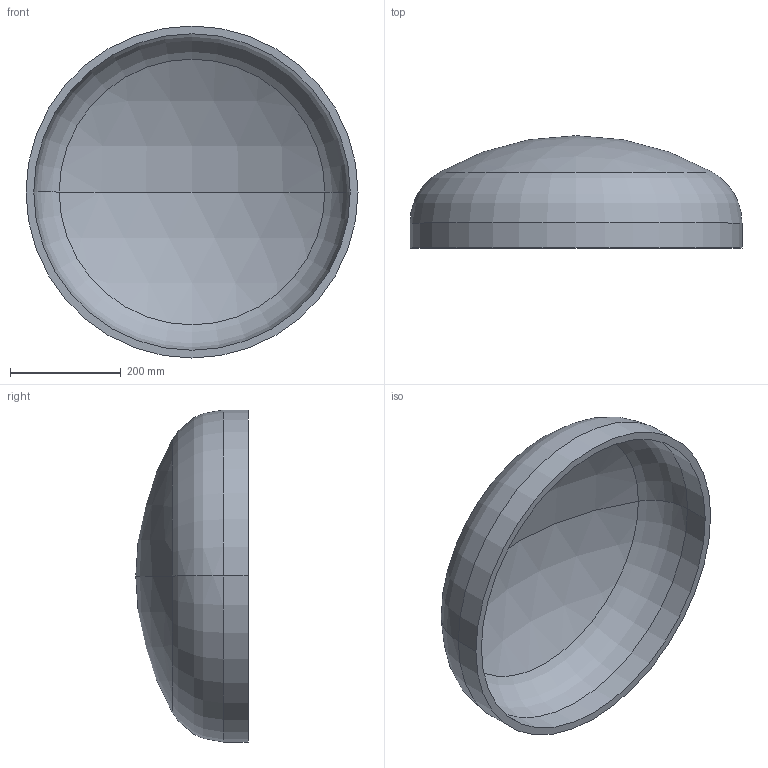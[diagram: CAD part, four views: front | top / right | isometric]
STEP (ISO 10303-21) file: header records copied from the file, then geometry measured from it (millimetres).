
FILE_DESCRIPTION (( 'STEP AP203' ), '1' );
FILE_NAME ('DIN 28013 Korbbogenform_-_Boden DIN 28013 - 600 x 45 - I - s=14.step', '2016-07-01T07:57:41', ( '' ), ( '' ), 'SwSTEP 2.0', 'SolidWorks 2013', '' );
FILE_SCHEMA (( 'CONFIG_CONTROL_DESIGN' ));
Length unit declared in the file: millimetre
Products named in the file (1): DIN 28013 Korbbogenform_-_Boden DIN 28013 - 600 x 45 - I - s=14
Bounding box: 600 x 202.98 x 600 mm (x, y, z)
Volume: 6472110.8 mm3; surface area: 950771.1 mm2
Topology: 1 solids, 1 shells, 13 faces, 24 edges, 14 vertices
Faces by surface type: torus 4, cylinder 4, sphere 4, plane 1
Entity records: 407 total; most frequent: DIRECTION 72, CARTESIAN_POINT 52, ORIENTED_EDGE 48, AXIS2_PLACEMENT_3D 34, EDGE_CURVE 24, CIRCLE 20, VERTEX_POINT 14, EDGE_LOOP 14
